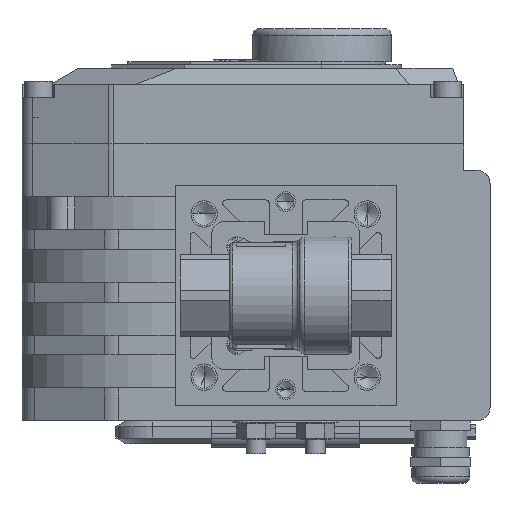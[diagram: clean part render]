
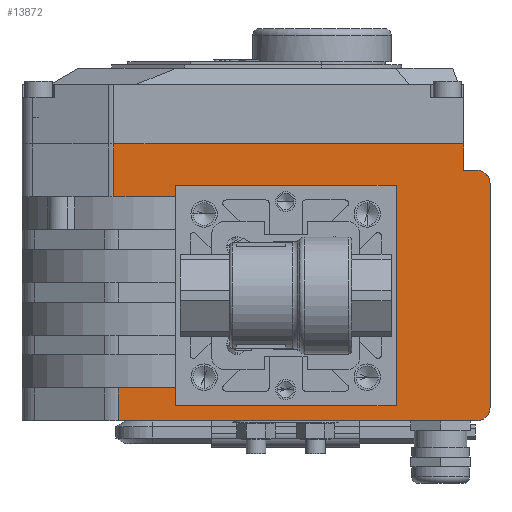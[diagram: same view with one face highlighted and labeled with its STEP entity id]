
A CAD part, front view. The second image highlights one B-rep face of the part: STEP entity #13872.
In plain terms, the highlighted planar face has unit normal (0, -1, 0).
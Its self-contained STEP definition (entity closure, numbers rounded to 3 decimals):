
#8845=DIRECTION('',(1.,0.,0.));
#8846=VECTOR('',#8845,108.749);
#8847=CARTESIAN_POINT('',(-47.,-36.5,0.));
#8848=LINE('',#8847,#8846);
#9272=DIRECTION('',(-1.,0.,0.));
#9273=VECTOR('',#9272,18.604);
#9274=CARTESIAN_POINT('',(63.104,-36.5,-68.));
#9275=LINE('',#9274,#9273);
#9532=DIRECTION('',(0.,0.,1.));
#9533=VECTOR('',#9532,16.);
#9534=CARTESIAN_POINT('',(63.104,-36.5,-84.));
#9535=LINE('',#9534,#9533);
#9536=DIRECTION('',(-1.,0.,0.));
#9537=VECTOR('',#9536,106.104);
#9538=CARTESIAN_POINT('',(63.104,-36.5,-84.));
#9539=LINE('',#9538,#9537);
#9540=CARTESIAN_POINT('',(-47.,-36.5,-72.));
#9541=DIRECTION('',(0.,-1.,0.));
#9542=DIRECTION('',(-1.,0.,0.));
#9543=AXIS2_PLACEMENT_3D('',#9540,#9541,#9542);
#9545=DIRECTION('',(0.,0.,-1.));
#9546=VECTOR('',#9545,68.);
#9547=CARTESIAN_POINT('',(-51.,-36.5,-4.));
#9548=LINE('',#9547,#9546);
#9549=CARTESIAN_POINT('',(-47.,-36.5,-4.));
#9550=DIRECTION('',(0.,-1.,0.));
#9551=DIRECTION('',(0.,0.,1.));
#9552=AXIS2_PLACEMENT_3D('',#9549,#9550,#9551);
#9554=DIRECTION('',(0.,0.,1.));
#9555=VECTOR('',#9554,10.);
#9556=CARTESIAN_POINT('',(61.749,-36.5,-10.));
#9557=LINE('',#9556,#9555);
#9558=DIRECTION('',(-1.,0.,0.));
#9559=VECTOR('',#9558,17.249);
#9560=CARTESIAN_POINT('',(61.749,-36.5,-10.));
#9561=LINE('',#9560,#9559);
#9562=DIRECTION('',(0.,0.,1.));
#9563=VECTOR('',#9562,5.5);
#9564=CARTESIAN_POINT('',(44.5,-36.5,-10.));
#9565=LINE('',#9564,#9563);
#9566=DIRECTION('',(-1.,0.,0.));
#9567=VECTOR('',#9566,67.);
#9568=CARTESIAN_POINT('',(44.5,-36.5,-4.5));
#9569=LINE('',#9568,#9567);
#9570=DIRECTION('',(0.,0.,-1.));
#9571=VECTOR('',#9570,67.);
#9572=CARTESIAN_POINT('',(-22.5,-36.5,-4.5));
#9573=LINE('',#9572,#9571);
#9574=DIRECTION('',(1.,0.,0.));
#9575=VECTOR('',#9574,67.);
#9576=CARTESIAN_POINT('',(-22.5,-36.5,-71.5));
#9577=LINE('',#9576,#9575);
#9578=DIRECTION('',(0.,0.,1.));
#9579=VECTOR('',#9578,3.5);
#9580=CARTESIAN_POINT('',(44.5,-36.5,-71.5));
#9581=LINE('',#9580,#9579);
#9871=DIRECTION('',(1.,0.,0.));
#9872=VECTOR('',#9871,4.);
#9873=CARTESIAN_POINT('',(-47.,-36.5,-76.));
#9874=LINE('',#9873,#9872);
#9907=DIRECTION('',(0.,0.,-1.));
#9908=VECTOR('',#9907,8.);
#9909=CARTESIAN_POINT('',(-43.,-36.5,-76.));
#9910=LINE('',#9909,#9908);
#12079=CARTESIAN_POINT('',(-43.,-36.5,-84.));
#12081=VERTEX_POINT('',#12079);
#12083=CARTESIAN_POINT('',(-43.,-36.5,-76.));
#12085=VERTEX_POINT('',#12083);
#12087=CARTESIAN_POINT('',(-47.,-36.5,0.));
#12088=CARTESIAN_POINT('',(-51.,-36.5,-4.));
#12089=VERTEX_POINT('',#12087);
#12090=VERTEX_POINT('',#12088);
#12099=CARTESIAN_POINT('',(-51.,-36.5,-72.));
#12100=CARTESIAN_POINT('',(-47.,-36.5,-76.));
#12101=VERTEX_POINT('',#12099);
#12102=VERTEX_POINT('',#12100);
#12131=CARTESIAN_POINT('',(61.749,-36.5,0.));
#12133=VERTEX_POINT('',#12131);
#12275=CARTESIAN_POINT('',(61.749,-36.5,-10.));
#12276=VERTEX_POINT('',#12275);
#12371=CARTESIAN_POINT('',(-22.5,-36.5,-4.5));
#12372=CARTESIAN_POINT('',(-22.5,-36.5,-71.5));
#12373=VERTEX_POINT('',#12371);
#12374=VERTEX_POINT('',#12372);
#12375=CARTESIAN_POINT('',(44.5,-36.5,-71.5));
#12376=VERTEX_POINT('',#12375);
#12377=CARTESIAN_POINT('',(44.5,-36.5,-68.));
#12378=VERTEX_POINT('',#12377);
#12391=CARTESIAN_POINT('',(44.5,-36.5,-10.));
#12392=CARTESIAN_POINT('',(44.5,-36.5,-4.5));
#12393=VERTEX_POINT('',#12391);
#12394=VERTEX_POINT('',#12392);
#13067=CARTESIAN_POINT('',(63.104,-36.5,-68.));
#13069=VERTEX_POINT('',#13067);
#13073=CARTESIAN_POINT('',(63.104,-36.5,-84.));
#13074=VERTEX_POINT('',#13073);
#13837=CARTESIAN_POINT('',(-51.,-36.5,0.));
#13838=DIRECTION('',(0.,-1.,0.));
#13839=DIRECTION('',(1.,0.,0.));
#13840=AXIS2_PLACEMENT_3D('',#13837,#13838,#13839);
#13841=PLANE('',#13840);
#13843=ORIENTED_EDGE('',*,*,#13842,.F.);
#13845=ORIENTED_EDGE('',*,*,#13844,.T.);
#13847=ORIENTED_EDGE('',*,*,#13846,.F.);
#13849=ORIENTED_EDGE('',*,*,#13848,.F.);
#13851=ORIENTED_EDGE('',*,*,#13850,.F.);
#13853=ORIENTED_EDGE('',*,*,#13852,.F.);
#13854=ORIENTED_EDGE('',*,*,#13782,.F.);
#13855=ORIENTED_EDGE('',*,*,#13094,.T.);
#13857=ORIENTED_EDGE('',*,*,#13856,.F.);
#13858=ORIENTED_EDGE('',*,*,#13236,.T.);
#13860=ORIENTED_EDGE('',*,*,#13859,.T.);
#13862=ORIENTED_EDGE('',*,*,#13861,.T.);
#13864=ORIENTED_EDGE('',*,*,#13863,.T.);
#13866=ORIENTED_EDGE('',*,*,#13865,.T.);
#13868=ORIENTED_EDGE('',*,*,#13867,.T.);
#13869=ORIENTED_EDGE('',*,*,#13498,.F.);
#13870=EDGE_LOOP('',(#13843,#13845,#13847,#13849,#13851,#13853,#13854,#13855,
#13857,#13858,#13860,#13862,#13864,#13866,#13868,#13869));
#13871=FACE_OUTER_BOUND('',#13870,.F.);
#13872=ADVANCED_FACE('',(#13871),#13841,.T.);
#9544=CIRCLE('',#9543,4.);
#9553=CIRCLE('',#9552,4.);
#13094=EDGE_CURVE('',#12089,#12133,#8848,.T.);
#13236=EDGE_CURVE('',#12276,#12393,#9561,.T.);
#13498=EDGE_CURVE('',#13069,#12378,#9275,.T.);
#13782=EDGE_CURVE('',#12089,#12090,#9553,.T.);
#13842=EDGE_CURVE('',#13074,#13069,#9535,.T.);
#13844=EDGE_CURVE('',#13074,#12081,#9539,.T.);
#13846=EDGE_CURVE('',#12085,#12081,#9910,.T.);
#13848=EDGE_CURVE('',#12102,#12085,#9874,.T.);
#13850=EDGE_CURVE('',#12101,#12102,#9544,.T.);
#13852=EDGE_CURVE('',#12090,#12101,#9548,.T.);
#13856=EDGE_CURVE('',#12276,#12133,#9557,.T.);
#13859=EDGE_CURVE('',#12393,#12394,#9565,.T.);
#13861=EDGE_CURVE('',#12394,#12373,#9569,.T.);
#13863=EDGE_CURVE('',#12373,#12374,#9573,.T.);
#13865=EDGE_CURVE('',#12374,#12376,#9577,.T.);
#13867=EDGE_CURVE('',#12376,#12378,#9581,.T.);
